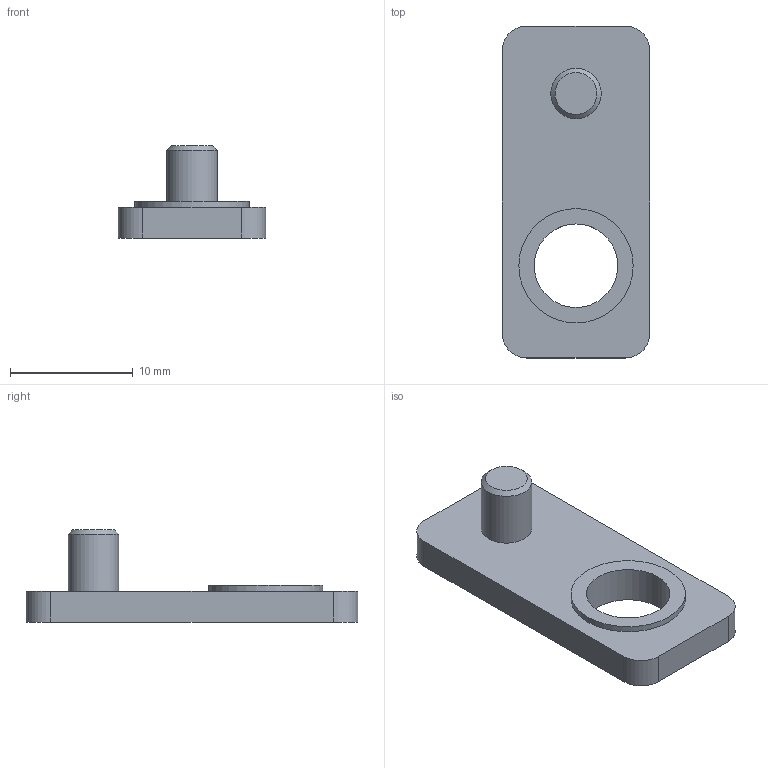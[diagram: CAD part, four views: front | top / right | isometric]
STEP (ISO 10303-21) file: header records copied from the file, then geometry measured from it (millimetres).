
FILE_DESCRIPTION(('Open CASCADE Model'),'2;1');
FILE_NAME('Open CASCADE Shape Model','2026-10-14T21:49:17',('Author'),( 'Open CASCADE'),'Open CASCADE STEP processor 7.9','Open CASCADE 7.9' ,'Unknown');
FILE_SCHEMA(('AUTOMOTIVE_DESIGN { 1 0 10303 214 1 1 1 1 }'));
Length unit declared in the file: millimetre
Products named in the file (1): Open CASCADE STEP translator 7.9 2
Bounding box: 12 x 27 x 7.5 mm (x, y, z)
Volume: 791.7 mm3; surface area: 895.2 mm2
Topology: 1 solids, 1 shells, 16 faces, 35 edges, 23 vertices
Faces by surface type: plane 8, cylinder 7, cone 1
Full cylindrical faces by diameter (mm): 4.1 x1, 6.8 x1, 9.3 x1
Entity records: 931 total; most frequent: CARTESIAN_POINT 183, DIRECTION 146, LINE 74, VECTOR 74, ORIENTED_EDGE 70, PCURVE 70, DEFINITIONAL_REPRESENTATION 70, EDGE_CURVE 35
